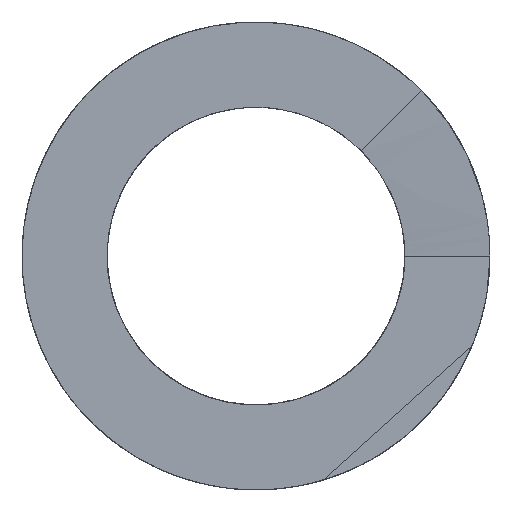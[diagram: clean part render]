
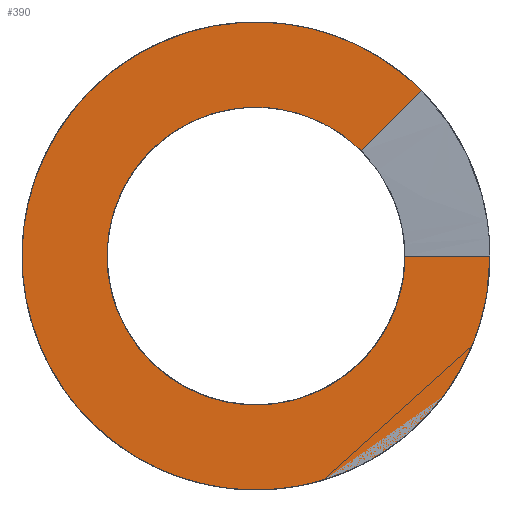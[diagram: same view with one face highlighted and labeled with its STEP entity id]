
A CAD part, front view. The second image highlights one B-rep face of the part: STEP entity #390.
In plain terms, the highlighted planar face has unit normal (0, -1, 0).
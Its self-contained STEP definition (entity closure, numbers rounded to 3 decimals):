
#36=LINE('',#2831,#44);
#44=VECTOR('',#461,10.);
#74=B_SPLINE_CURVE_WITH_KNOTS('',3,(#2115,#2116,#2117,#2118,#2119,#2120,
#2121,#2122,#2123,#2124,#2125,#2126,#2127,#2128,#2129,#2130,#2131,#2132,
#2133,#2134,#2135,#2136,#2137,#2138,#2139,#2140,#2141,#2142,#2143,#2144,
#2145,#2146,#2147,#2148,#2149,#2150,#2151,#2152,#2153,#2154,#2155,#2156),
 .UNSPECIFIED.,.F.,.F.,(4,2,2,2,2,2,2,2,2,2,2,2,2,2,2,2,2,2,2,2,4),(-10.999,
-10.535,-10.071,-9.295,-8.6,
-7.978,-7.43,-6.973,-6.582,
-6.466,-6.404,-6.327,-6.236,
-5.457,-4.677,-3.898,-3.118,
-2.339,-1.559,-0.78,0.),
 .UNSPECIFIED.);
#83=B_SPLINE_CURVE_WITH_KNOTS('',3,(#2719,#2720,#2721,#2722,#2723,#2724,
#2725,#2726,#2727,#2728,#2729,#2730,#2731,#2732,#2733,#2734,#2735,#2736,
#2737,#2738,#2739,#2740,#2741,#2742,#2743,#2744,#2745,#2746,#2747,#2748,
#2749,#2750,#2751,#2752,#2753,#2754,#2755,#2756,#2757,#2758,#2759,#2760),
 .UNSPECIFIED.,.F.,.F.,(4,2,2,2,2,2,2,2,2,2,2,2,2,2,2,2,2,2,2,2,4),(-17.283,
-16.27,-15.258,-14.033,-12.808,
-11.583,-10.359,-9.134,-7.909,
-7.393,-7.28,-7.184,-7.07,
-6.919,-6.431,-5.406,-4.587,
-3.689,-2.45,-1.225,0.),.UNSPECIFIED.);
#89=B_SPLINE_CURVE_WITH_KNOTS('',3,(#2825,#2826,#2827,#2828,#2829,#2830),
 .UNSPECIFIED.,.F.,.F.,(4,2,4),(-1.14,-0.57,0.),.UNSPECIFIED.);
#114=FACE_OUTER_BOUND('',#140,.T.);
#140=EDGE_LOOP('',(#335,#336,#337,#338));
#171=VERTEX_POINT('',#1767);
#178=VERTEX_POINT('',#2109);
#181=VERTEX_POINT('',#2286);
#186=VERTEX_POINT('',#2718);
#224=EDGE_CURVE('',#178,#171,#74,.T.);
#235=EDGE_CURVE('',#181,#186,#83,.T.);
#242=EDGE_CURVE('',#186,#178,#89,.T.);
#243=EDGE_CURVE('',#171,#181,#36,.T.);
#335=ORIENTED_EDGE('',*,*,#242,.F.);
#336=ORIENTED_EDGE('',*,*,#235,.F.);
#337=ORIENTED_EDGE('',*,*,#243,.F.);
#338=ORIENTED_EDGE('',*,*,#224,.F.);
#372=PLANE('',#429);
#390=ADVANCED_FACE('',(#114),#372,.F.);
#429=AXIS2_PLACEMENT_3D('',#2824,#459,#460);
#459=DIRECTION('center_axis',(0.,1.,0.));
#460=DIRECTION('ref_axis',(0.,0.,1.));
#461=DIRECTION('',(1.,0.,0.));
#1767=CARTESIAN_POINT('',(19.955,0.,0.));
#2109=CARTESIAN_POINT('',(14.11,0.,14.11));
#2115=CARTESIAN_POINT('Ctrl Pts',(14.11,0.,
14.11));
#2116=CARTESIAN_POINT('Ctrl Pts',(13.017,0.,
15.204));
#2117=CARTESIAN_POINT('Ctrl Pts',(11.8,0.,
16.167));
#2118=CARTESIAN_POINT('Ctrl Pts',(9.168,0.,
17.792));
#2119=CARTESIAN_POINT('Ctrl Pts',(7.762,0.,
18.448));
#2120=CARTESIAN_POINT('Ctrl Pts',(3.841,0.,
19.752));
#2121=CARTESIAN_POINT('Ctrl Pts',(1.252,0.,
20.083));
#2122=CARTESIAN_POINT('Ctrl Pts',(-3.639,0.,
19.757));
#2123=CARTESIAN_POINT('Ctrl Pts',(-5.906,0.,
19.201));
#2124=CARTESIAN_POINT('Ctrl Pts',(-9.924,0.,
17.436));
#2125=CARTESIAN_POINT('Ctrl Pts',(-11.681,0.,
16.311));
#2126=CARTESIAN_POINT('Ctrl Pts',(-14.599,0.,
13.726));
#2127=CARTESIAN_POINT('Ctrl Pts',(-15.793,0.,
12.334));
#2128=CARTESIAN_POINT('Ctrl Pts',(-17.607,0.,
9.515));
#2129=CARTESIAN_POINT('Ctrl Pts',(-18.283,0.,
8.141));
#2130=CARTESIAN_POINT('Ctrl Pts',(-19.233,0.,
5.477));
#2131=CARTESIAN_POINT('Ctrl Pts',(-19.549,0.,
4.211));
#2132=CARTESIAN_POINT('Ctrl Pts',(-19.796,0.,
2.541));
#2133=CARTESIAN_POINT('Ctrl Pts',(-19.842,0.,
2.157));
#2134=CARTESIAN_POINT('Ctrl Pts',(-19.895,0.,
1.564));
#2135=CARTESIAN_POINT('Ctrl Pts',(-19.91,0.,
1.357));
#2136=CARTESIAN_POINT('Ctrl Pts',(-19.937,0.,
0.894));
#2137=CARTESIAN_POINT('Ctrl Pts',(-19.946,0.,
0.64));
#2138=CARTESIAN_POINT('Ctrl Pts',(-19.957,0.,
0.082));
#2139=CARTESIAN_POINT('Ctrl Pts',(-19.956,0.,-0.221));
#2140=CARTESIAN_POINT('Ctrl Pts',(-19.88,0.,-3.121));
#2141=CARTESIAN_POINT('Ctrl Pts',(-19.305,0.,-5.681));
#2142=CARTESIAN_POINT('Ctrl Pts',(-17.207,0.,-10.435));
#2143=CARTESIAN_POINT('Ctrl Pts',(-15.703,0.,-12.584));
#2144=CARTESIAN_POINT('Ctrl Pts',(-11.957,0.,-16.186));
#2145=CARTESIAN_POINT('Ctrl Pts',(-9.75,0.,-17.604));
#2146=CARTESIAN_POINT('Ctrl Pts',(-4.916,0.,-19.514));
#2147=CARTESIAN_POINT('Ctrl Pts',(-2.336,0.,-19.987));
#2148=CARTESIAN_POINT('Ctrl Pts',(2.86,0.,-19.919));
#2149=CARTESIAN_POINT('Ctrl Pts',(5.427,0.,-19.378));
#2150=CARTESIAN_POINT('Ctrl Pts',(10.208,0.,-17.342));
#2151=CARTESIAN_POINT('Ctrl Pts',(12.377,0.,-15.867));
#2152=CARTESIAN_POINT('Ctrl Pts',(16.028,0.,-12.168));
#2153=CARTESIAN_POINT('Ctrl Pts',(17.474,0.,-9.98));
#2154=CARTESIAN_POINT('Ctrl Pts',(19.447,0.,-5.172));
#2155=CARTESIAN_POINT('Ctrl Pts',(19.955,0.,-2.598));
#2156=CARTESIAN_POINT('Ctrl Pts',(19.955,0.,0.));
#2286=CARTESIAN_POINT('',(31.355,0.,0.));
#2718=CARTESIAN_POINT('',(22.171,0.,22.171));
#2719=CARTESIAN_POINT('Ctrl Pts',(31.355,0.,0.));
#2720=CARTESIAN_POINT('Ctrl Pts',(31.355,0.,-3.375));
#2721=CARTESIAN_POINT('Ctrl Pts',(30.81,0.,-6.727));
#2722=CARTESIAN_POINT('Ctrl Pts',(28.673,0.,-13.13));
#2723=CARTESIAN_POINT('Ctrl Pts',(27.095,0.,-16.137));
#2724=CARTESIAN_POINT('Ctrl Pts',(22.615,0.,-22.099));
#2725=CARTESIAN_POINT('Ctrl Pts',(19.548,0.,-24.853));
#2726=CARTESIAN_POINT('Ctrl Pts',(12.531,0.,-29.03));
#2727=CARTESIAN_POINT('Ctrl Pts',(8.649,0.,-30.414));
#2728=CARTESIAN_POINT('Ctrl Pts',(0.572,0.,-31.615));
#2729=CARTESIAN_POINT('Ctrl Pts',(-3.545,0.,-31.42));
#2730=CARTESIAN_POINT('Ctrl Pts',(-11.473,0.,-29.465));
#2731=CARTESIAN_POINT('Ctrl Pts',(-15.209,0.,-27.722));
#2732=CARTESIAN_POINT('Ctrl Pts',(-21.801,0.,-22.903));
#2733=CARTESIAN_POINT('Ctrl Pts',(-24.595,0.,-19.872));
#2734=CARTESIAN_POINT('Ctrl Pts',(-28.864,0.,-12.911));
#2735=CARTESIAN_POINT('Ctrl Pts',(-30.298,0.,-9.047));
#2736=CARTESIAN_POINT('Ctrl Pts',(-31.226,0.,-3.318));
#2737=CARTESIAN_POINT('Ctrl Pts',(-31.361,0.,
-1.6));
#2738=CARTESIAN_POINT('Ctrl Pts',(-31.353,0.,
0.496));
#2739=CARTESIAN_POINT('Ctrl Pts',(-31.345,0.,
0.871));
#2740=CARTESIAN_POINT('Ctrl Pts',(-31.317,0.,
1.568));
#2741=CARTESIAN_POINT('Ctrl Pts',(-31.3,0.,
1.889));
#2742=CARTESIAN_POINT('Ctrl Pts',(-31.25,0.,
2.587));
#2743=CARTESIAN_POINT('Ctrl Pts',(-31.217,0.,
2.964));
#2744=CARTESIAN_POINT('Ctrl Pts',(-31.123,0.,
3.842));
#2745=CARTESIAN_POINT('Ctrl Pts',(-31.057,0.,
4.342));
#2746=CARTESIAN_POINT('Ctrl Pts',(-30.728,0.,
6.446));
#2747=CARTESIAN_POINT('Ctrl Pts',(-30.353,0.,
8.03));
#2748=CARTESIAN_POINT('Ctrl Pts',(-28.813,0.,
12.831));
#2749=CARTESIAN_POINT('Ctrl Pts',(-27.244,0.,
15.893));
#2750=CARTESIAN_POINT('Ctrl Pts',(-23.589,0.,
20.837));
#2751=CARTESIAN_POINT('Ctrl Pts',(-21.685,0.,
22.811));
#2752=CARTESIAN_POINT('Ctrl Pts',(-17.21,0.,
26.38));
#2753=CARTESIAN_POINT('Ctrl Pts',(-14.615,0.,
27.901));
#2754=CARTESIAN_POINT('Ctrl Pts',(-8.02,0.,
30.592));
#2755=CARTESIAN_POINT('Ctrl Pts',(-3.925,0.,
31.381));
#2756=CARTESIAN_POINT('Ctrl Pts',(4.289,0.,
31.328));
#2757=CARTESIAN_POINT('Ctrl Pts',(8.327,0.,
30.504));
#2758=CARTESIAN_POINT('Ctrl Pts',(15.861,0.,
27.354));
#2759=CARTESIAN_POINT('Ctrl Pts',(19.284,0.,
25.058));
#2760=CARTESIAN_POINT('Ctrl Pts',(22.171,0.,
22.171));
#2824=CARTESIAN_POINT('Origin',(0.,0.,0.));
#2825=CARTESIAN_POINT('Ctrl Pts',(22.171,0.,22.171));
#2826=CARTESIAN_POINT('Ctrl Pts',(20.828,0.,
20.828));
#2827=CARTESIAN_POINT('Ctrl Pts',(19.484,0.,
19.484));
#2828=CARTESIAN_POINT('Ctrl Pts',(16.797,0.,
16.797));
#2829=CARTESIAN_POINT('Ctrl Pts',(15.454,0.,
15.454));
#2830=CARTESIAN_POINT('Ctrl Pts',(14.11,0.,
14.11));
#2831=CARTESIAN_POINT('',(12.828,0.,0.));
